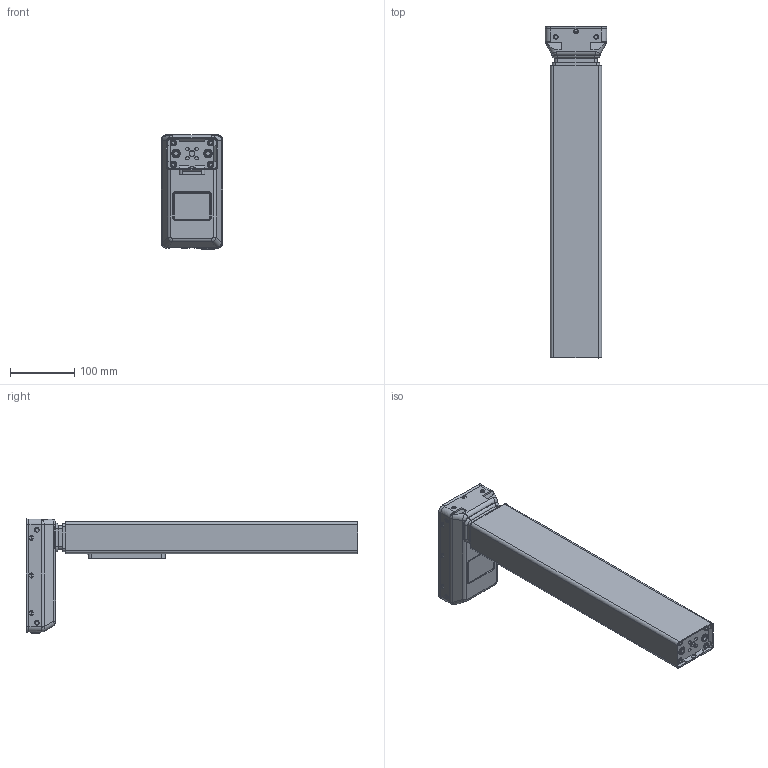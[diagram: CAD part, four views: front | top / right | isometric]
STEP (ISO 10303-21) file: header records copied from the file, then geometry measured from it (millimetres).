
FILE_DESCRIPTION((''),'2;1');
FILE_NAME('DL6_IC_MASTER_BIFMA1_ASM','2025-03-24T13:23:48',('jak'),(''),'CREO PARAMETRIC BY PTC INC, 2022024','CREO PARAMETRIC BY PTC INC, 2022024','');
FILE_SCHEMA(('AUTOMOTIVE_DESIGN { 1 0 10303 214 1 1 1 1 }'));
Length unit declared in the file: millimetre
Products named in the file (5): DL6NC_BIFMA_OP1_NEW18-PLUS; DL6NC_MP18-PLUS; 1041W7906-A-00-1; 1041W4034; DL6_IC_MASTER_BIFMA1_ASM
Assembly tree (4 placements, depth 2):
  DL6_IC_MASTER_BIFMA1_ASM
    DL6NC_BIFMA_OP1_NEW18-PLUS
    DL6NC_MP18-PLUS
    1041W7906-A-00-1
    1041W4034
Bounding box: 96.5 x 518 x 178.6 mm (x, y, z)
Volume: 3992655.6 mm3; surface area: 307914.2 mm2
Topology: 6 solids, 6 shells, 915 faces, 2311 edges, 1448 vertices
Faces by surface type: plane 407, cylinder 359, torus 72, bspline 54, sphere 15, cone 8
Entity records: 38105 total; most frequent: CARTESIAN_POINT 11136, ORIENTED_EDGE 4622, DIRECTION 4443, EDGE_CURVE 2311, AXIS2_PLACEMENT_3D 1563, VERTEX_POINT 1448, VECTOR 1317, LINE 1317
